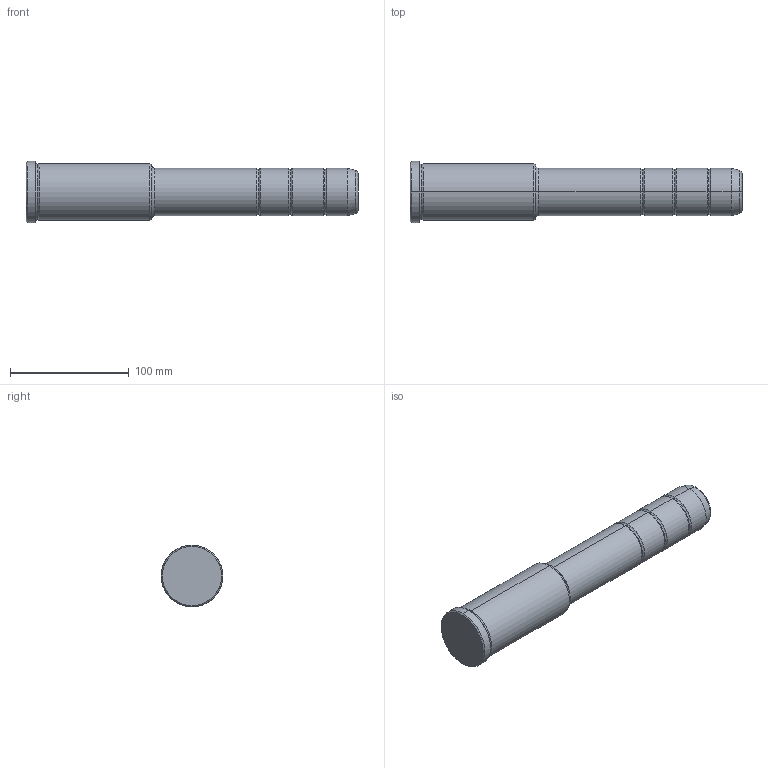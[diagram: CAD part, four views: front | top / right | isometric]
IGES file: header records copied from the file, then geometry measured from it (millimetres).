
Start section: START RECORD GO HERE.
Global section: file name: 351-40X106X280.igs; native system: DASSAULT SYSTEMES CATIA V5 R20 - www.3ds.com; preprocessor: CATIA Version 5 Release 20 ; author: Utente; organization: NB04-ASUS; date: 20211007.154153; units: millimetre
Bounding box: 280 x 52 x 52 mm (x, y, z)
Surface area: 41733.5 mm2 (no closed solid volume)
Topology: 0 solids, 0 shells, 42 faces, 236 edges, 236 vertices
Faces by surface type: revolution 38, plane 4
